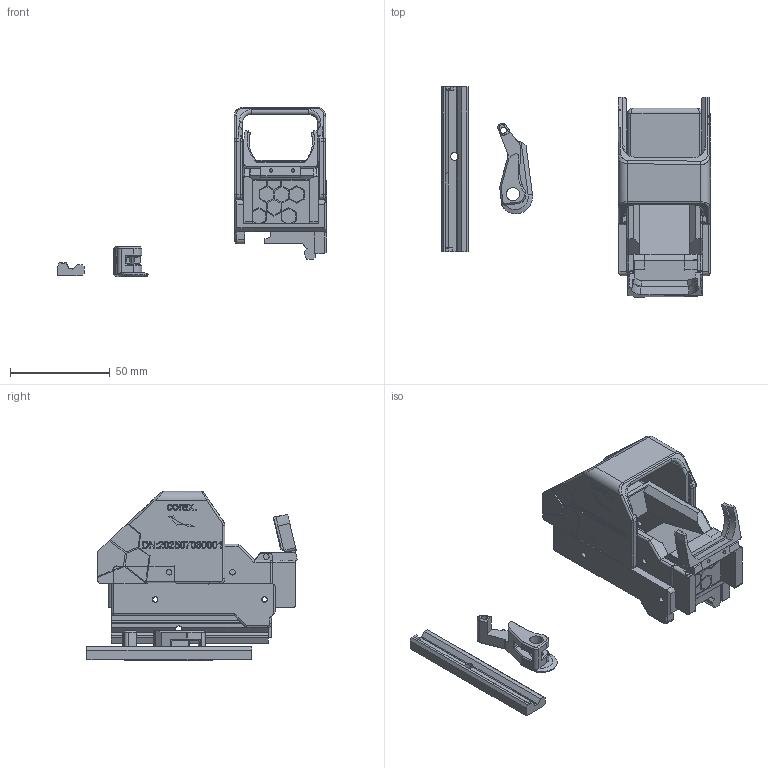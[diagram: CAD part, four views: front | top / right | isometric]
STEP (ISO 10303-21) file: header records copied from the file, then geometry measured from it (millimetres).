
FILE_DESCRIPTION(/* description */ (''),/* implementation_level */ '2;1');
FILE_NAME(/* name */ 'C:/Users/daixi/Desktop/s-n-12-ll.stp',/* time_stamp */ '2025-07-15T01:56:33+08:00',/* author */ (''),/* organization */ (''),/* preprocessor_version */ 'ST-DEVELOPER v15.2',/* originating_system */ 'Autodesk Translator Framework v2.0.0.5431',/* authorisation */ '');
FILE_SCHEMA (('AUTOMOTIVE_DESIGN { 1 0 10303 214 3 1 1 }'));
Length unit declared in the file: centimetre
Products named in the file (1): s-n-10
Bounding box: 135.19 x 105.71 x 85 mm (x, y, z)
Volume: 111132.3 mm3; surface area: 60750.3 mm2
Topology: 7 solids, 8 shells, 1275 faces, 3517 edges, 2290 vertices
Faces by surface type: plane 756, bspline 341, cylinder 142, cone 24, torus 11, sphere 1
Full cylindrical faces by diameter (mm): 0.549 x1, 2.8 x15, 3 x1, 3.2 x1, 3.6 x2, 4 x1, 6 x2, 6.7 x1, 7 x1
Entity records: 43963 total; most frequent: CARTESIAN_POINT 13629, ORIENTED_EDGE 6962, DIRECTION 5022, EDGE_CURVE 3476, LINE 2402, VECTOR 2402, VERTEX_POINT 2280, EDGE_LOOP 1399
